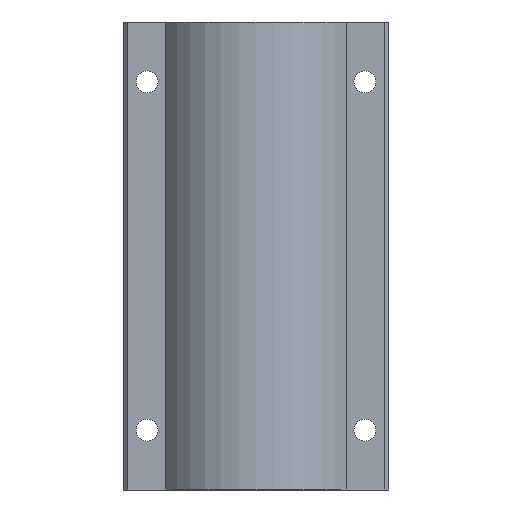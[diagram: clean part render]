
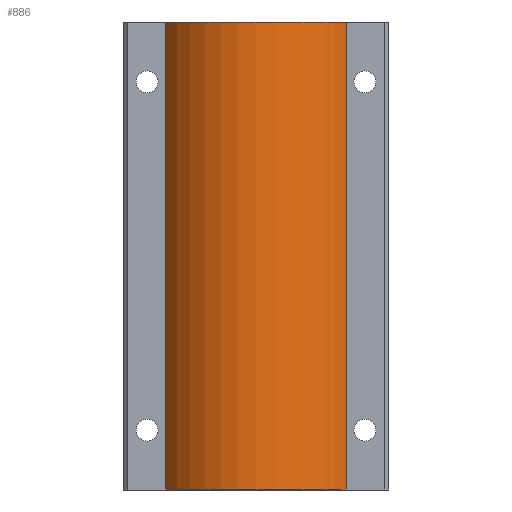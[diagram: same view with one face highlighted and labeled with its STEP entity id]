
A CAD part, front view. The second image highlights one B-rep face of the part: STEP entity #886.
In plain terms, the highlighted cylindrical face has radius 50 mm (diameter 100 mm), a partial arc.
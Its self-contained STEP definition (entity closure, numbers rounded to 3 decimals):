
#689=CARTESIAN_POINT('',(40.716,-23.802,-2.));
#690=VERTEX_POINT('',#689);
#697=CARTESIAN_POINT('',(-42.133,-23.802,-2.));
#698=VERTEX_POINT('',#697);
#699=CARTESIAN_POINT('',(-0.709,4.198,-2.));
#700=DIRECTION('',(0.0,0.0,1.));
#701=DIRECTION('',(0.828,0.56,0.0));
#702=AXIS2_PLACEMENT_3D('',#699,#700,#701);
#703=CIRCLE('',#702,50.0);
#704=EDGE_CURVE('',#698,#690,#703,.T.);
#835=CARTESIAN_POINT('',(40.716,-23.802,213.));
#836=VERTEX_POINT('',#835);
#843=CARTESIAN_POINT('',(40.716,-23.802,213.));
#844=DIRECTION('',(0.0,0.0,-1.0));
#845=VECTOR('',#844,215.);
#846=LINE('',#843,#845);
#847=EDGE_CURVE('',#836,#690,#846,.T.);
#862=CARTESIAN_POINT('',(-0.709,4.198,105.5));
#863=DIRECTION('',(0.0,0.0,1.0));
#864=DIRECTION('',(0.828,0.56,0.0));
#865=AXIS2_PLACEMENT_3D('',#862,#863,#864);
#866=CYLINDRICAL_SURFACE('',#865,50.);
#867=CARTESIAN_POINT('',(-42.133,-23.802,213.));
#868=VERTEX_POINT('',#867);
#869=CARTESIAN_POINT('',(-0.709,4.198,213.0));
#870=DIRECTION('',(0.0,0.0,-1.));
#871=DIRECTION('',(0.828,0.56,0.0));
#872=AXIS2_PLACEMENT_3D('',#869,#870,#871);
#873=CIRCLE('',#872,50.0);
#874=EDGE_CURVE('',#836,#868,#873,.T.);
#875=ORIENTED_EDGE('',*,*,#874,.T.);
#876=CARTESIAN_POINT('',(-42.133,-23.802,213.));
#877=DIRECTION('',(0.0,0.0,-1.0));
#878=VECTOR('',#877,215.);
#879=LINE('',#876,#878);
#880=EDGE_CURVE('',#868,#698,#879,.T.);
#881=ORIENTED_EDGE('',*,*,#880,.T.);
#882=ORIENTED_EDGE('',*,*,#704,.T.);
#883=ORIENTED_EDGE('',*,*,#847,.F.);
#884=EDGE_LOOP('',(#875,#881,#882,#883));
#885=FACE_OUTER_BOUND('',#884,.T.);
#886=ADVANCED_FACE('',(#885),#866,.T.);
